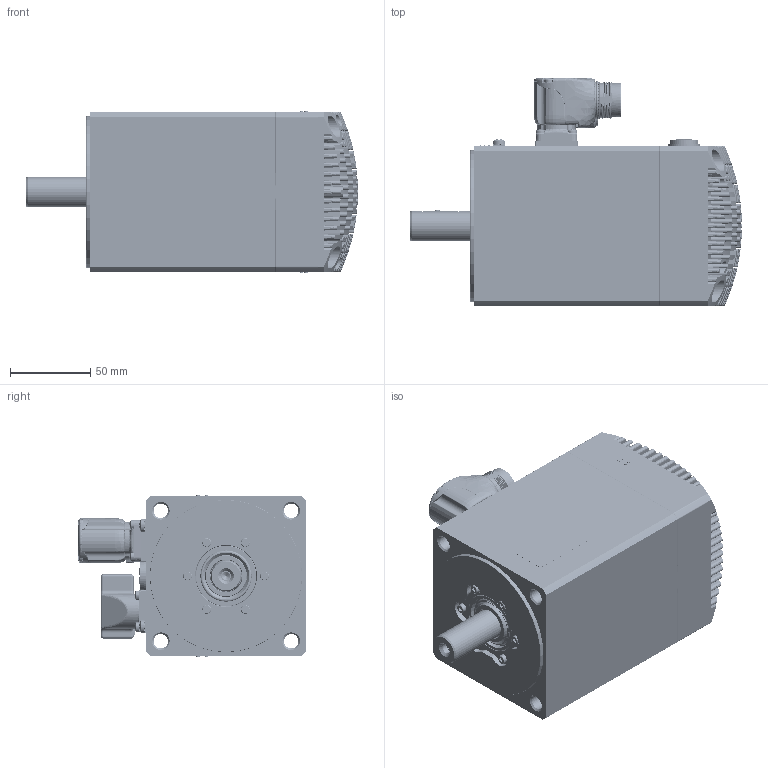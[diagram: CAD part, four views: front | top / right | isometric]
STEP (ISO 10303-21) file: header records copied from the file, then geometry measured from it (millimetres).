
FILE_DESCRIPTION((''),'2;1');
FILE_NAME('32190015741_ASM','2022-04-12T12:15:39',('gabrielec'),(''),'CREO PARAMETRIC BY PTC INC, 2021304','CREO PARAMETRIC BY PTC INC, 2021304','');
FILE_SCHEMA(('AP242_MANAGED_MODEL_BASED_3D_ENGINEERING_MIM_LF { 1 0 10303 442 1 1 4 }'));
Products named in the file (37): 50992N-0; 32149915563_ASM; 22320015079; 50938N-0; 22320015079_ASM; 32050015014_ASM; 32060015580_ASM; 51941N-1; 32090015034_ASM; NRG_001; M3X16_GBT70-1; GB_T862_1; M4X8_GBT818_CU; 51093N-0; 32159915247_ASM; 22160015160; MENTOR-1292_9013; CEMBRE_FD9; CEMBRE_2053M16N; 32150015177_ASM; PHOENIX-1605586; 33000015098_AF14_ASM; UNI7687_M3X8_INOX; CAN_OPEN; 33200203857_AF7_ASM; 31500203857_AF7_ASM; 50941N-0; UNI7687_M3X6_INOX; 22210015021; 32150015175_ASM; UNI5931_M4X16; LIP_SEAL_TW05; 22250015024; 22250015126; 43500000229; 43500000050; 32190015741_ASM
Assembly tree (64 placements, depth 7):
  32190015741_ASM
    32159915247_ASM
      32149915563_ASM
        50992N-0
      32090015034_ASM
        32060015580_ASM
          32050015014_ASM
            22320015079_ASM
              22320015079
              50938N-0
        51941N-1
      NRG_001  x6
      M3X16_GBT70-1  x6
      GB_T862_1  x2
      M4X8_GBT818_CU  x2
      51093N-0
    32150015177_ASM
      22160015160
      MENTOR-1292_9013  x8
      CEMBRE_FD9
      CEMBRE_2053M16N
    33000015098_AF14_ASM
      PHOENIX-1605586
    UNI7687_M3X8_INOX  x4
    31500203857_AF7_ASM
      33200203857_AF7_ASM
        CAN_OPEN
    50941N-0  x2
    UNI7687_M3X6_INOX  x3
    32150015175_ASM
      22210015021
    UNI5931_M4X16  x4
    LIP_SEAL_TW05
    22250015024
    22250015126
    43500000229
    43500000050
Bounding box: 207 x 142.41 x 100.8 mm (x, y, z)
Volume: 644109.2 mm3; surface area: 323393.3 mm2
Topology: 73 solids, 101 shells, 4616 faces, 11618 edges, 7371 vertices
Faces by surface type: plane 1586, cylinder 1138, cone 661, bspline 612, torus 354, sphere 243, revolution 11, extrusion 11
Entity records: 201059 total; most frequent: CARTESIAN_POINT 68261, ORIENTED_EDGE 20540, DIRECTION 18708, PRESENTATION_STYLE_ASSIGNMENT 10736, EDGE_CURVE 10325, STYLED_ITEM 10322, CURVE_STYLE 10251, AXIS2_PLACEMENT_3D 7273
